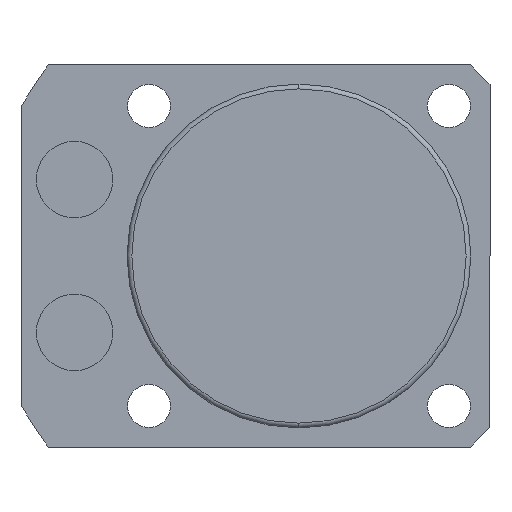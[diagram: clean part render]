
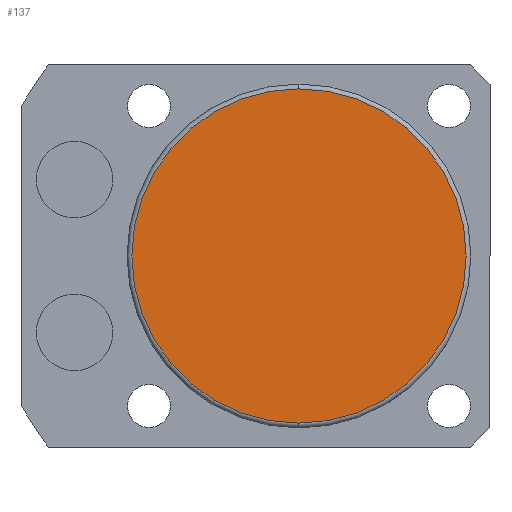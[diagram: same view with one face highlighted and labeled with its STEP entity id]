
A CAD part, front view. The second image highlights one B-rep face of the part: STEP entity #137.
In plain terms, the highlighted planar face has unit normal (0, -1, 0).
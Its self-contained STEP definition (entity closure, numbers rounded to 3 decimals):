
#128 = PLANE ( 'NONE',  #1166 ) ;
#137 = ADVANCED_FACE ( 'NONE', ( #997 ), #128, .T. ) ;
#447 = VERTEX_POINT ( 'NONE', #2278 ) ;
#605 = EDGE_LOOP ( 'NONE', ( #1793, #1881 ) ) ;
#659 = DIRECTION ( 'NONE',  ( 0., 0., -1. ) ) ;
#672 = CARTESIAN_POINT ( 'NONE',  ( 0., -100.5, 0. ) ) ;
#692 = DIRECTION ( 'NONE',  ( 0., 0., -1. ) ) ;
#693 = AXIS2_PLACEMENT_3D ( 'NONE', #1951, #1235, #659 ) ;
#849 = DIRECTION ( 'NONE',  ( 0., -1., 0. ) ) ;
#997 = FACE_OUTER_BOUND ( 'NONE', #605, .T. ) ;
#1166 = AXIS2_PLACEMENT_3D ( 'NONE', #1764, #2318, #2289 ) ;
#1235 = DIRECTION ( 'NONE',  ( 0., -1., 0. ) ) ;
#1275 = CIRCLE ( 'NONE', #693, 17.5 ) ;
#1477 = VERTEX_POINT ( 'NONE', #2038 ) ;
#1764 = CARTESIAN_POINT ( 'NONE',  ( 0., -100.5, 0. ) ) ;
#1793 = ORIENTED_EDGE ( 'NONE', *, *, #2003, .T. ) ;
#1856 = AXIS2_PLACEMENT_3D ( 'NONE', #672, #849, #692 ) ;
#1881 = ORIENTED_EDGE ( 'NONE', *, *, #1968, .T. ) ;
#1951 = CARTESIAN_POINT ( 'NONE',  ( 0., -100.5, 0. ) ) ;
#1968 = EDGE_CURVE ( 'NONE', #447, #1477, #1275, .T. ) ;
#2003 = EDGE_CURVE ( 'NONE', #1477, #447, #2329, .T. ) ;
#2038 = CARTESIAN_POINT ( 'NONE',  ( 0., -100.5, -17.5 ) ) ;
#2278 = CARTESIAN_POINT ( 'NONE',  ( 0., -100.5, 17.5 ) ) ;
#2289 = DIRECTION ( 'NONE',  ( 0., 0., -1. ) ) ;
#2318 = DIRECTION ( 'NONE',  ( 0., -1., 0. ) ) ;
#2329 = CIRCLE ( 'NONE', #1856, 17.5 ) ;
